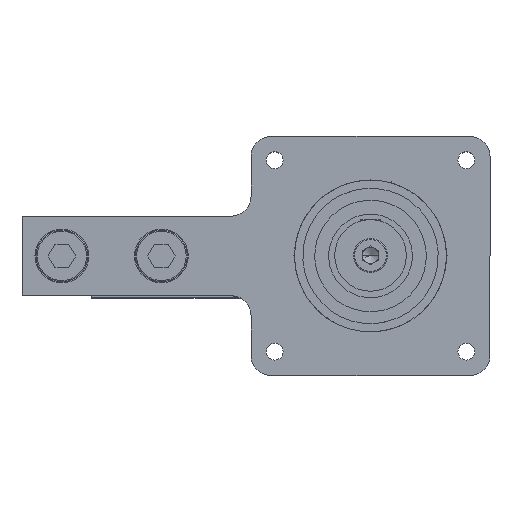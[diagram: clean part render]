
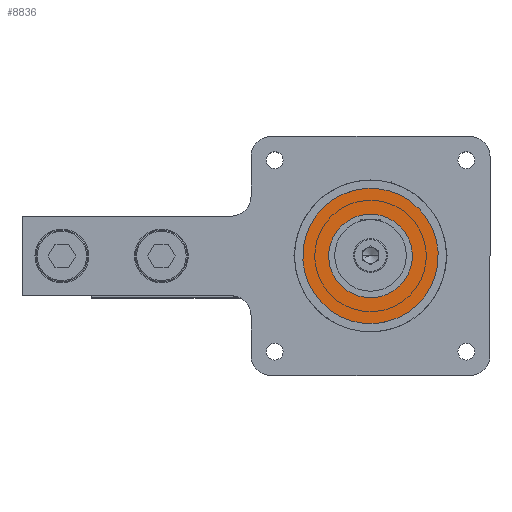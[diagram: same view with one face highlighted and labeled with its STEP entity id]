
A CAD part, top view. The second image highlights one B-rep face of the part: STEP entity #8836.
In plain terms, the highlighted planar face has unit normal (0, 0, 1).
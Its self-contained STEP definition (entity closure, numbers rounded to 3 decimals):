
#3 = FACE_BOUND ( 'NONE', #9274, .T. ) ;
#30 = ORIENTED_EDGE ( 'NONE', *, *, #12060, .T. ) ;
#153 = CARTESIAN_POINT ( 'NONE',  ( -10.5, 0., 5.5 ) ) ;
#580 = VERTEX_POINT ( 'NONE', #13831 ) ;
#777 = EDGE_CURVE ( 'NONE', #13928, #11713, #8359, .T. ) ;
#1144 = DIRECTION ( 'NONE',  ( 1., 0., 0. ) ) ;
#1980 = DIRECTION ( 'NONE',  ( 0., 0., -1. ) ) ;
#2046 = DIRECTION ( 'NONE',  ( 0., 0., 1. ) ) ;
#2195 = ORIENTED_EDGE ( 'NONE', *, *, #3769, .F. ) ;
#2420 = VERTEX_POINT ( 'NONE', #10273 ) ;
#2819 = CARTESIAN_POINT ( 'NONE',  ( 0., 0., 5.5 ) ) ;
#3165 = DIRECTION ( 'NONE',  ( -1., 0., 0. ) ) ;
#3321 = DIRECTION ( 'NONE',  ( 0., 0., 1. ) ) ;
#3769 = EDGE_CURVE ( 'NONE', #11713, #13928, #7231, .T. ) ;
#4350 = PLANE ( 'NONE',  #11130 ) ;
#4527 = AXIS2_PLACEMENT_3D ( 'NONE', #2819, #8281, #13919 ) ;
#5017 = AXIS2_PLACEMENT_3D ( 'NONE', #8824, #2046, #13209 ) ;
#6022 = EDGE_CURVE ( 'NONE', #580, #2420, #6526, .T. ) ;
#6078 = CIRCLE ( 'NONE', #4527, 17. ) ;
#6293 = AXIS2_PLACEMENT_3D ( 'NONE', #12318, #14458, #1144 ) ;
#6526 = CIRCLE ( 'NONE', #6293, 17. ) ;
#7041 = AXIS2_PLACEMENT_3D ( 'NONE', #10032, #3321, #7800 ) ;
#7231 = CIRCLE ( 'NONE', #5017, 10.5 ) ;
#7374 = ORIENTED_EDGE ( 'NONE', *, *, #777, .F. ) ;
#7724 = CARTESIAN_POINT ( 'NONE',  ( 10.5, 0., 5.5 ) ) ;
#7800 = DIRECTION ( 'NONE',  ( 1., 0., 0. ) ) ;
#8281 = DIRECTION ( 'NONE',  ( 0., 0., 1. ) ) ;
#8359 = CIRCLE ( 'NONE', #7041, 10.5 ) ;
#8824 = CARTESIAN_POINT ( 'NONE',  ( 0., 0., 5.5 ) ) ;
#8836 = ADVANCED_FACE ( 'NONE', ( #3, #14176 ), #4350, .F. ) ;
#9274 = EDGE_LOOP ( 'NONE', ( #2195, #7374 ) ) ;
#9860 = EDGE_LOOP ( 'NONE', ( #30, #12242 ) ) ;
#10032 = CARTESIAN_POINT ( 'NONE',  ( 0., 0., 5.5 ) ) ;
#10273 = CARTESIAN_POINT ( 'NONE',  ( 17., 0., 5.5 ) ) ;
#11130 = AXIS2_PLACEMENT_3D ( 'NONE', #14254, #1980, #3165 ) ;
#11713 = VERTEX_POINT ( 'NONE', #7724 ) ;
#12060 = EDGE_CURVE ( 'NONE', #2420, #580, #6078, .T. ) ;
#12242 = ORIENTED_EDGE ( 'NONE', *, *, #6022, .T. ) ;
#12318 = CARTESIAN_POINT ( 'NONE',  ( 0., 0., 5.5 ) ) ;
#13209 = DIRECTION ( 'NONE',  ( 1., 0., 0. ) ) ;
#13831 = CARTESIAN_POINT ( 'NONE',  ( -17., 0., 5.5 ) ) ;
#13919 = DIRECTION ( 'NONE',  ( 1., 0., 0. ) ) ;
#13928 = VERTEX_POINT ( 'NONE', #153 ) ;
#14176 = FACE_OUTER_BOUND ( 'NONE', #9860, .T. ) ;
#14254 = CARTESIAN_POINT ( 'NONE',  ( -17., 0., 5.5 ) ) ;
#14458 = DIRECTION ( 'NONE',  ( 0., 0., 1. ) ) ;
